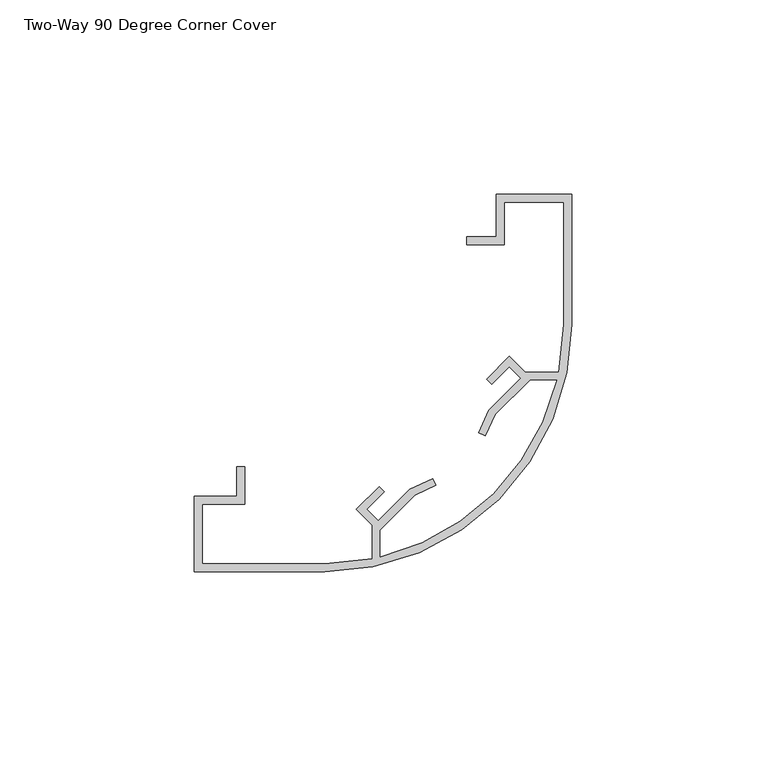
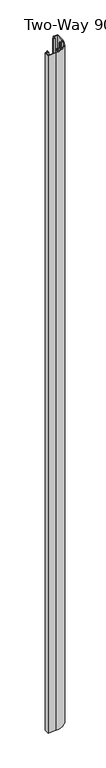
"""IFC4 building model written with IfcOpenShell, lengths in millimetres: proxy geometry, Cover-Teknion-FHP2C-Two_Way_90_Degree-Corner-R2021 : Two-Way 90 Degree Corner Cover."""

import ifcopenshell
import ifcopenshell.guid

model = None  # the IFC model being written
_history = None  # IfcOwnerHistory: only IFC2X3 demands one
_inside = {}  # id of a spatial element -> (the spatial element, [elements in it])
_under = {}  # id of a project, library or spatial element -> (it, [spatial elements below it])
_declared = {}  # id of a project -> (the project, [libraries it declares])
_typed = {}  # id of a type object -> (the type object, [elements of that type])
_made_of = {}  # id of a material, layer set ... -> (it, [elements and type objects made of it])


def new_model(schema):
    """Start an empty IFC model of exactly this schema.

    Asked for "IFC4X3", IfcOpenShell would pick the latest addendum, in which some entities
    have other attributes; the version numbers below select the first issue.
    IFC2X3 requires an IfcOwnerHistory on every rooted entity: one is made here for all.
    """
    global model, _history
    if schema == "IFC4X3":
        model = ifcopenshell.file(schema_version=(4, 3, 0, 0))
    else:
        model = ifcopenshell.file(schema=schema)
    _inside.clear()
    _under.clear()
    _declared.clear()
    _typed.clear()
    _made_of.clear()
    _history = None
    if model.schema == "IFC2X3":
        org = make("IfcOrganization", Name="unknown")
        user = make(
            "IfcPersonAndOrganization",
            ThePerson=make("IfcPerson", FamilyName="unknown"),
            TheOrganization=org,
        )
        app = make(
            "IfcApplication",
            ApplicationDeveloper=org,
            Version="unknown",
            ApplicationFullName="unknown",
            ApplicationIdentifier="unknown",
        )
        _history = make(
            "IfcOwnerHistory",
            OwningUser=user,
            OwningApplication=app,
            ChangeAction="ADDED",
            CreationDate=0,
        )
    return model


def make(cls, **values):
    """One entity of the class cls with the attributes given. An attribute that is None is left unset."""
    return model.create_entity(
        cls, **{name: value for name, value in values.items() if value is not None}
    )


def rooted(cls, **values):
    """An entity with a GlobalId (a new one), such as an element, a storey or a relation."""
    return make(cls, GlobalId=ifcopenshell.guid.new(), OwnerHistory=_history, **values)


def si_unit(unit_type, name, prefix=None):
    """IfcSIUnit, for example si_unit("LENGTHUNIT", "METRE", prefix="MILLI")."""
    return make("IfcSIUnit", UnitType=unit_type, Prefix=prefix, Name=name)


def assignment(units):
    """IfcUnitAssignment: the units of a project."""
    return None if units is None else make("IfcUnitAssignment", Units=units)


def point(xyz):
    """IfcCartesianPoint."""
    return None if xyz is None else make("IfcCartesianPoint", Coordinates=xyz)


def direction(xyz):
    """IfcDirection."""
    return None if xyz is None else make("IfcDirection", DirectionRatios=xyz)


def frame(location, z_axis=None, x_axis=None):
    """IfcAxis2Placement3D, a coordinate frame: its origin and axes. An axis left out is left unset."""
    return make(
        "IfcAxis2Placement3D",
        Location=point(location),
        Axis=direction(z_axis),
        RefDirection=direction(x_axis),
    )


def frame_2d(location, x_axis=None):
    """IfcAxis2Placement2D, a coordinate frame in the plane: its origin and x axis."""
    return make(
        "IfcAxis2Placement2D", Location=point(location), RefDirection=direction(x_axis)
    )


def origin():
    """The frame at (0, 0, 0) with its axes left unset."""
    return frame((0.0, 0.0, 0.0))


def origin_with_axes():
    """The frame at (0, 0, 0) with the z axis (0, 0, 1) and the x axis (1, 0, 0) written out."""
    return frame((0.0, 0.0, 0.0), z_axis=(0.0, 0.0, 1.0), x_axis=(1.0, 0.0, 0.0))


def place(relative_to, where):
    """IfcLocalPlacement: puts the frame where relative to a parent placement (None: the world)."""
    return make(
        "IfcLocalPlacement", PlacementRelTo=relative_to, RelativePlacement=where
    )


def context(
    kind, dimensions, precision=None, world=None, true_north=None, identifier=None
):
    """IfcGeometricRepresentationContext, for example the 3D "Model" context."""
    return make(
        "IfcGeometricRepresentationContext",
        ContextIdentifier=identifier,
        ContextType=kind,
        CoordinateSpaceDimension=dimensions,
        Precision=precision,
        WorldCoordinateSystem=world,
        TrueNorth=true_north,
    )


def project(units=None, contexts=None):
    """IfcProject with its units and contexts."""
    return rooted(
        "IfcProject",
        Name="project",
        RepresentationContexts=contexts,
        UnitsInContext=assignment(units),
    )


def spatial(cls, under=None, at=None, **own):
    """A site, building, storey or space (cls), placed at a placement, below another one or the project."""
    s = rooted(cls, ObjectPlacement=at, **own)
    if under is not None:
        _under.setdefault(under.id(), (under, []))[1].append(s)
    return s


def polyline(points):
    """IfcPolyline through the points."""
    return make("IfcPolyline", Points=[point(p) for p in points])


def circle_curve(where, radius):
    """IfcCircle in the frame where."""
    return make("IfcCircle", Position=where, Radius=radius)


def trimmed(basis, trim1, trim2, sense, master):
    """IfcTrimmedCurve: the piece of a basis curve between two trims."""
    return make(
        "IfcTrimmedCurve",
        BasisCurve=basis,
        Trim1=trim1,
        Trim2=trim2,
        SenseAgreement=sense,
        MasterRepresentation=master,
    )


def segment(curve, same_sense, transition):
    """IfcCompositeCurveSegment."""
    return make(
        "IfcCompositeCurveSegment",
        Transition=transition,
        SameSense=same_sense,
        ParentCurve=curve,
    )


def composite_curve(segments, self_intersect=None):
    """IfcCompositeCurve: segments joined end to end."""
    return make("IfcCompositeCurve", Segments=segments, SelfIntersect=self_intersect)


def outline(outer, holes=None, kind="AREA"):
    """IfcArbitraryClosedProfileDef: a profile drawn as a closed curve; with holes, ...WithVoids."""
    if holes is None:
        return make("IfcArbitraryClosedProfileDef", ProfileType=kind, OuterCurve=outer)
    return make(
        "IfcArbitraryProfileDefWithVoids",
        ProfileType=kind,
        OuterCurve=outer,
        InnerCurves=holes,
    )


def extrude(swept, where, along, depth):
    """IfcExtrudedAreaSolid: the profile swept, set in the frame where, extruded along a direction by depth."""
    return make(
        "IfcExtrudedAreaSolid",
        SweptArea=swept,
        Position=where,
        ExtrudedDirection=direction(along),
        Depth=depth,
    )


def shape(context_of_items, identifier, shape_type, items):
    """IfcShapeRepresentation: the items that make up one representation, for example the "Body"."""
    return make(
        "IfcShapeRepresentation",
        ContextOfItems=context_of_items,
        RepresentationIdentifier=identifier,
        RepresentationType=shape_type,
        Items=items,
    )


def source(mapping_origin, context_of_items, identifier, shape_type, items):
    """IfcRepresentationMap: a shape defined once, which mapped items show again and again."""
    return make(
        "IfcRepresentationMap",
        MappingOrigin=mapping_origin,
        MappedRepresentation=shape(context_of_items, identifier, shape_type, items),
    )


def transform(
    local_origin,
    x_axis=None,
    y_axis=None,
    z_axis=None,
    scale=None,
    scale2=None,
    scale3=None,
    uniform=True,
):
    """IfcCartesianTransformationOperator3D, or its non-uniform kind. x_axis, y_axis, z_axis: its Axis1, 2, 3."""
    if uniform:
        return make(
            "IfcCartesianTransformationOperator3D",
            Axis1=direction(x_axis),
            Axis2=direction(y_axis),
            LocalOrigin=point(local_origin),
            Scale=scale,
            Axis3=direction(z_axis),
        )
    return make(
        "IfcCartesianTransformationOperator3DnonUniform",
        Axis1=direction(x_axis),
        Axis2=direction(y_axis),
        LocalOrigin=point(local_origin),
        Scale=scale,
        Axis3=direction(z_axis),
        Scale2=scale2,
        Scale3=scale3,
    )


def mapped(mapping_source, mapping_target):
    """IfcMappedItem: shows the shape of a source again, moved by a transform."""
    return make(
        "IfcMappedItem", MappingSource=mapping_source, MappingTarget=mapping_target
    )


def made_of(thing, what):
    """Note that an element or type object is made of a material, layer set ...; save() writes the relation."""
    if what is not None:
        _made_of.setdefault(what.id(), (what, []))[1].append(thing)
    return thing


def element(
    cls,
    number,
    at=None,
    inside=None,
    cuts=None,
    type_object=None,
    material=None,
    context=None,
    identifier="Body",
    shape_type=None,
    held_by="IfcProductDefinitionShape",
    body=None,
    shapes=None,
    **own,
):
    """One element of the class cls, such as IfcWall. Its Tag is "e" and its number.

    at: its placement. inside: the storey or other place that contains it. cuts: it is an
    opening in that element (IfcRelVoidsElement). A single representation is given by context,
    identifier, shape_type and body (its items); several are given by shapes. held_by: the class
    of the entity that holds the representations. save() writes the other relations.
    """
    e = rooted(cls, Tag="e%d" % number, ObjectPlacement=at, **own)
    if body is not None:
        shapes = [shape(context, identifier, shape_type, body)]
    if shapes is not None:
        e.Representation = make(held_by, Representations=shapes)
    if inside is not None:
        _inside.setdefault(inside.id(), (inside, []))[1].append(e)
    if cuts is not None:
        rooted(
            "IfcRelVoidsElement", RelatingBuildingElement=cuts, RelatedOpeningElement=e
        )
    if type_object is not None:
        _typed.setdefault(type_object.id(), (type_object, []))[1].append(e)
    return made_of(e, material)


def aggregate(whole, parts):
    """IfcRelAggregates: a whole, such as a stair, and the parts it consists of."""
    return rooted("IfcRelAggregates", RelatingObject=whole, RelatedObjects=parts)


def save(model, path):
    """Write the relations noted so far, then the file.

    IfcRelAggregates (storeys below a building ...), IfcRelContainedInSpatialStructure (elements
    in a storey), IfcRelDefinesByType, IfcRelAssociatesMaterial and IfcRelDeclares: one each for
    every whole, place, type object, material and project.
    """
    for whole, parts in _under.values():
        aggregate(whole, parts)
    for where, things in _inside.values():
        rooted(
            "IfcRelContainedInSpatialStructure",
            RelatedElements=things,
            RelatingStructure=where,
        )
    for kind, things in _typed.values():
        rooted("IfcRelDefinesByType", RelatedObjects=things, RelatingType=kind)
    for what, things in _made_of.values():
        rooted("IfcRelAssociatesMaterial", RelatedObjects=things, RelatingMaterial=what)
    for by, libraries in _declared.values():
        rooted("IfcRelDeclares", RelatingContext=by, RelatedDefinitions=libraries)
    model.write(path)


def two_way_90_degree_corner_cover_b744859d(model_context):
    return source(origin(), model_context, "Body", "SweptSolid", [
        extrude(outline(composite_curve([segment(polyline([(61.5619621, 76.3749107), (61.5619621, 42.8723079)]), True, "CONTINUOUS"), segment(trimmed(circle_curve(frame_2d((-1.9380398, 42.8723079)), 63.5000019), [point((61.5619621, 42.8723079))], [point((-1.9380398, -20.6276939))], False, "CARTESIAN"), True, "CONTINUOUS"), segment(polyline([(-1.9380398, -20.6276939), (-35.440637, -20.6276939), (-35.440637, -1.3236936), (-24.4868906, -1.3236936), (-24.4868906, 6.2963054), (-22.4548925, 6.2963054), (-22.4548925, -3.355694), (-33.4086389, -3.355694), (-33.4086389, -18.5956936), (-1.9380398, -18.5956936), (10.2793649, -17.4007301), (10.2793649, -8.6786172), (6.2259737, -4.6252245), (12.0857464, 1.1893368), (13.41122, -0.1361406), (8.9210881, -4.626268), (11.8633264, -7.5684994), (20.0075956, 0.5332669), (25.8095407, 3.2657137), (26.6152394, 1.5378799), (21.2255081, -0.975396), (12.184363, -9.9836384), (12.184363, -16.9684379), (23.2163341, -13.2130984), (32.9468812, -7.7375493), (41.5264015, -0.5921323), (48.6718184, 7.9873881), (54.1473676, 17.7179329), (57.9342149, 28.7499062), (50.9183133, 28.7499062), (41.98556, 19.8171529), (39.3949967, 14.3196798), (37.669872, 15.1241153), (40.3251077, 20.8182841), (48.5234701, 29.0502408), (45.5605373, 32.0131818), (41.0704093, 27.5230486), (39.7223245, 28.8711296), (45.5821016, 34.6856884), (49.6128856, 30.6549044), (58.3349994, 30.6549044), (59.5299629, 42.8723091), (59.5299629, 74.3429036), (44.2899638, 74.3429036), (44.2899638, 63.3891572), (34.6379616, 63.3891572), (34.6379616, 65.4211553), (42.2579634, 65.4211553), (42.2579634, 76.3749107), (61.5619621, 76.3749107)]), True, "CONTINUOUS")], self_intersect=False)), origin_with_axes(), (0.0, 0.0, 1.0), 3048.0),
    ])


if __name__ == "__main__":
    model = new_model("IFC4")
    model_context = context("Model", 3, world=origin())
    ifc_project = project(units=[si_unit("LENGTHUNIT", "METRE", prefix="MILLI")], contexts=[model_context])
    site = spatial("IfcSite", under=ifc_project)
    building = spatial("IfcBuilding", under=site)
    placement = place(None, origin())
    two_way_90_degree_corner_cover_shape = two_way_90_degree_corner_cover_b744859d(model_context)
    element("IfcBuildingElementProxy", 1, Name="Cover-Teknion-FHP2C-Two_Way_90_Degree-Corner-R2021 : Two-Way 90 Degree Corner Cover", ObjectType="Cover-Teknion-FHP2C-Two_Way_90_Degree-Corner-R2021 : Two-Way 90 Degree Corner Cover", at=placement, inside=building, context=model_context, shape_type="MappedRepresentation", body=[
        mapped(two_way_90_degree_corner_cover_shape, transform((0.0, 0.0, 0.0), x_axis=(1.0, 0.0, 0.0), y_axis=(0.0, 1.0, 0.0), z_axis=(0.0, 0.0, 1.0))),
    ])
    save(model, "model.ifc")
